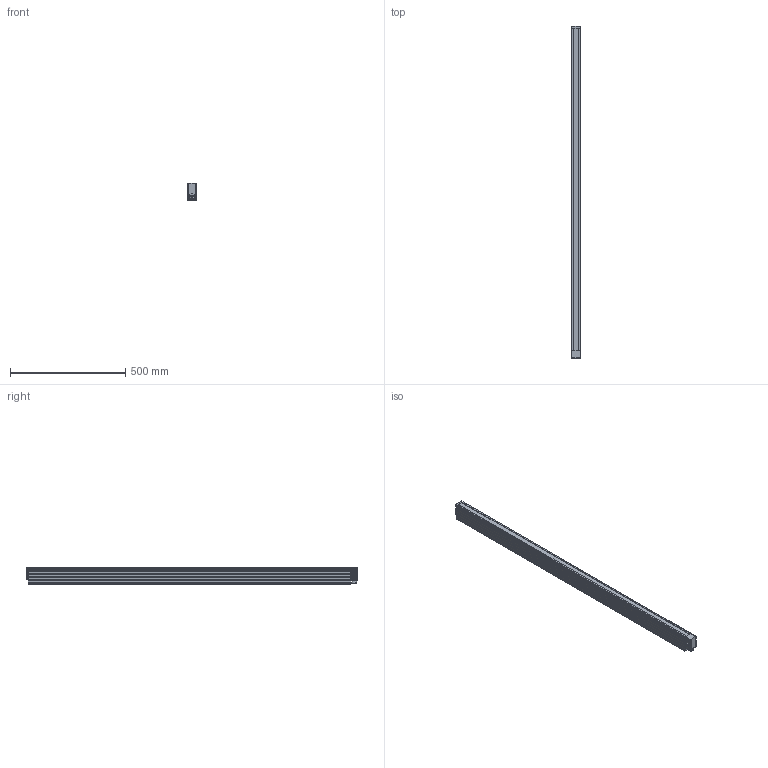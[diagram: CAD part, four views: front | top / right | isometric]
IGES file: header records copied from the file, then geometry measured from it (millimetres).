
Start section: SolidWorks IGES file using analytic representation for surfaces
Global section: file name: C:\Users\88691\Desktop\VST LIGHTING\VST LINEAR LIGHT 線燈\VLN 線光\VLN STEP圖檔用\VLN (L_D)-1400W _ Drawing _ L1267A (L12782A_L1298A)-A00101.IGS; native system: SolidWorks 2020; preprocessor: SolidWorks 2020; author: 88691; date: 240624.152924; units: millimetre
Bounding box: 40 x 1442 x 75 mm (x, y, z)
Surface area: 774083.4 mm2 (no closed solid volume)
Topology: 0 solids, 0 shells, 1158 faces, 12124 edges, 12123 vertices
Faces by surface type: bspline 734, revolution 424
